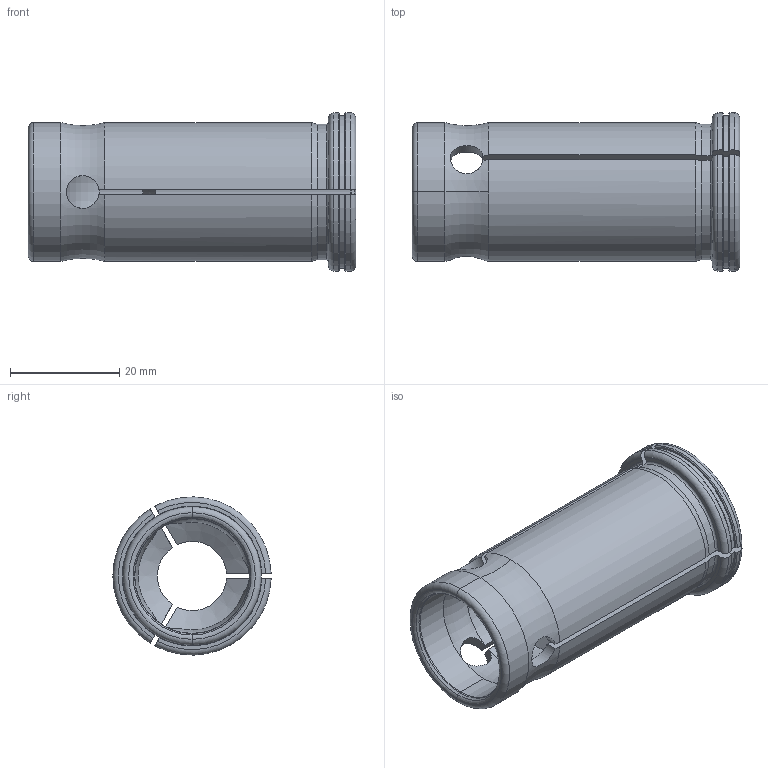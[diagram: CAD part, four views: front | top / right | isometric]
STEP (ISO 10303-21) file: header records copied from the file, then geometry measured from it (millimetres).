
FILE_DESCRIPTION((''),'2;1');
FILE_NAME('K25_4-12_7','2020-09-02T08:16:18',('ssktool'),(''),'CREO PARAMETRIC BY PTC INC, 2018100','CREO PARAMETRIC BY PTC INC, 2018100','');
FILE_SCHEMA(('CONFIG_CONTROL_DESIGN'));
Length unit declared in the file: millimetre
Products named in the file (1): K25_4-12_7
Bounding box: 60 x 28.99 x 29 mm (x, y, z)
Volume: 17473.4 mm3; surface area: 9922.3 mm2
Topology: 1 solids, 1 shells, 89 faces, 252 edges, 163 vertices
Faces by surface type: cylinder 28, torus 26, plane 18, cone 17
Entity records: 3320 total; most frequent: CARTESIAN_POINT 1045, ORIENTED_EDGE 504, DIRECTION 442, EDGE_CURVE 252, AXIS2_PLACEMENT_3D 182, VERTEX_POINT 163, CIRCLE 93, EDGE_LOOP 89
